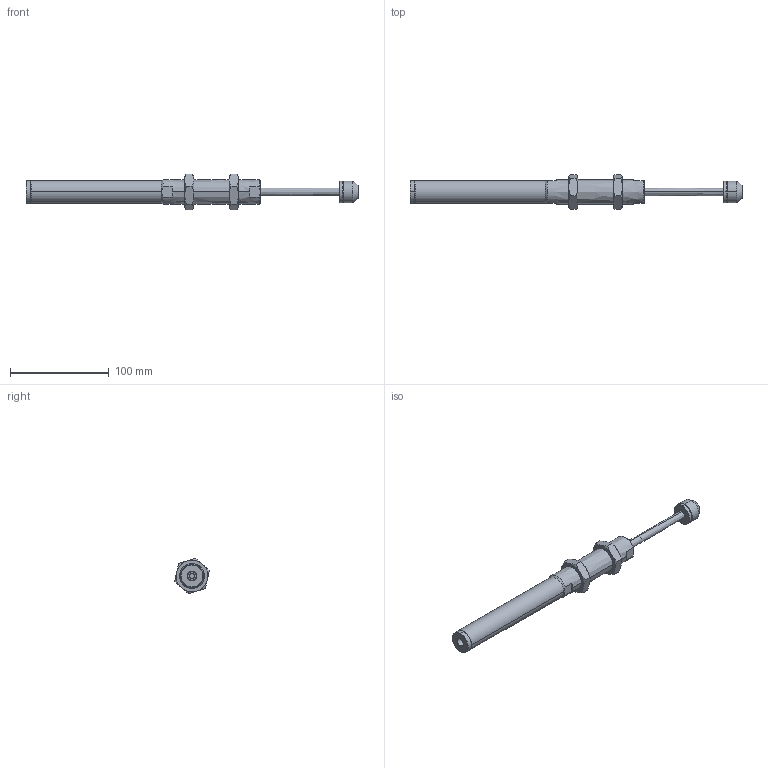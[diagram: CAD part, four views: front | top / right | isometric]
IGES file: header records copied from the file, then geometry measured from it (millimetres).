
Start section: SolidWorks IGES file using analytic representation for surfaces
Global section: file name: D:\IGS跡宒\AC2580(P2.0).IGS,1; native system: 5HSolidWorks 2013; preprocessor: SolidWorks 2013; author: Administrator; date: 160412.110006; units: inch
Bounding box: 335.7 x 35.22 x 36.09 mm (x, y, z)
Surface area: 28172.1 mm2 (no closed solid volume)
Topology: 0 solids, 0 shells, 113 faces, 1660 edges, 1660 vertices
Faces by surface type: revolution 80, bspline 33
